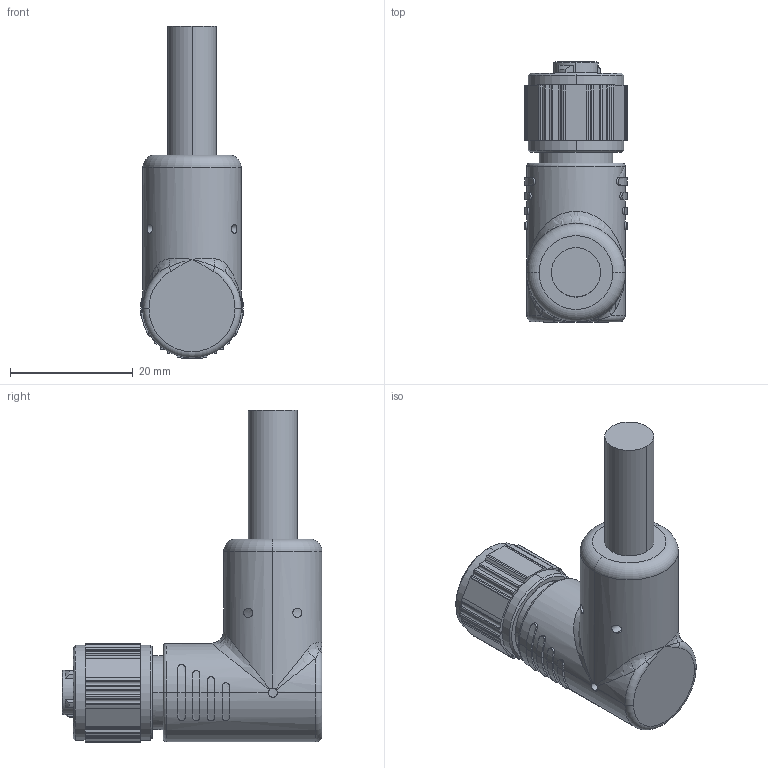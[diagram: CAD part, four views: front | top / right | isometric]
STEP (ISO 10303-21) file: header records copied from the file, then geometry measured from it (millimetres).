
FILE_DESCRIPTION((''),'2;1');
FILE_NAME('_-20190412-2-SOLID0001','2023-05-29T18:16:58',('MilletLi'),(''),'CREO PARAMETRIC BY PTC INC, 2019352','CREO PARAMETRIC BY PTC INC, 2019352','');
FILE_SCHEMA(('CONFIG_CONTROL_DESIGN','SHAPE_APPEARANCE_LAYERS_GROUPS'));
Length unit declared in the file: millimetre
Products named in the file (1): _-20190412-2-SOLID0001
Bounding box: 16.92 x 42.3 x 54.02 mm (x, y, z)
Volume: 12150.6 mm3; surface area: 7580.3 mm2
Topology: 2 solids, 8 shells, 809 faces, 1953 edges, 1225 vertices
Faces by surface type: cylinder 305, plane 245, cone 111, bspline 50, torus 48, extrusion 46, revolution 4
Entity records: 37339 total; most frequent: CARTESIAN_POINT 11670, ORIENTED_EDGE 3894, DIRECTION 3889, PRESENTATION_STYLE_ASSIGNMENT 2069, STYLED_ITEM 1953, CURVE_STYLE 1949, EDGE_CURVE 1949, AXIS2_PLACEMENT_3D 1487
